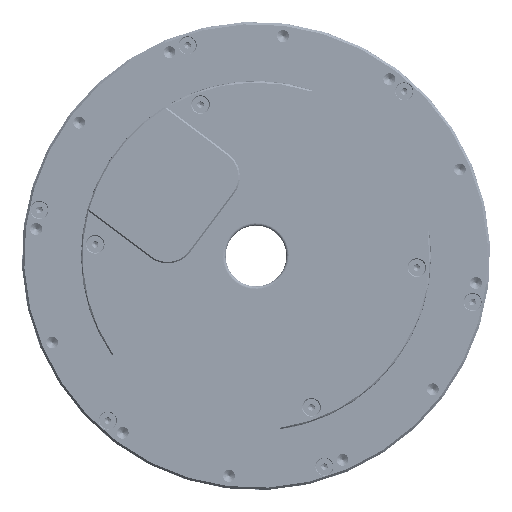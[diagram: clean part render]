
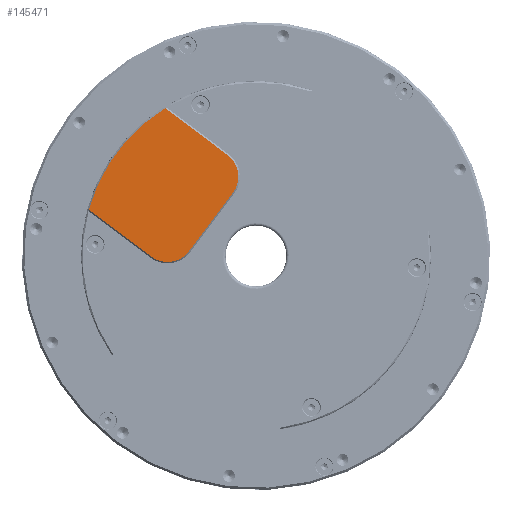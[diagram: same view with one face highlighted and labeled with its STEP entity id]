
A CAD part, front view. The second image highlights one B-rep face of the part: STEP entity #145471.
In plain terms, the highlighted planar face has unit normal (0, -1, 0) as drawn and (0, 1, 0) by its records, which use the part's own axes.
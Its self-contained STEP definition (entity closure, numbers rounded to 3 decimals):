
#111 = CARTESIAN_POINT ( 'NONE',  ( 20., 15., 13. ) ) ;
#3038 = CIRCLE ( 'NONE', #212226, 9.5 ) ;
#19775 = VECTOR ( 'NONE', #98049, 1000. ) ;
#40787 = DIRECTION ( 'NONE',  ( 0., 0., 1. ) ) ;
#41523 = EDGE_CURVE ( 'NONE', #121225, #242561, #149301, .T. ) ;
#42374 = EDGE_CURVE ( 'NONE', #144346, #281523, #48724, .T. ) ;
#42624 = ORIENTED_EDGE ( 'NONE', *, *, #274014, .T. ) ;
#45858 = VERTEX_POINT ( 'NONE', #83059 ) ;
#48724 = CIRCLE ( 'NONE', #365118, 61.5 ) ;
#50904 = EDGE_CURVE ( 'NONE', #260087, #45858, #3038, .T. ) ;
#57289 = CARTESIAN_POINT ( 'NONE',  ( 0., 15., 22.5 ) ) ;
#59827 = CARTESIAN_POINT ( 'NONE',  ( 29.5, 15., 22.5 ) ) ;
#70266 = DIRECTION ( 'NONE',  ( 0., 0., 1. ) ) ;
#72952 = CARTESIAN_POINT ( 'NONE',  ( 29.5, 15., -22.5 ) ) ;
#75769 = DIRECTION ( 'NONE',  ( 0., 1., 0. ) ) ;
#79219 = ORIENTED_EDGE ( 'NONE', *, *, #41523, .T. ) ;
#82415 = LINE ( 'NONE', #142320, #176179 ) ;
#83059 = CARTESIAN_POINT ( 'NONE',  ( 20., 15., -13. ) ) ;
#89481 = ORIENTED_EDGE ( 'NONE', *, *, #328472, .T. ) ;
#98049 = DIRECTION ( 'NONE',  ( 0., 0., 1. ) ) ;
#121225 = VERTEX_POINT ( 'NONE', #111 ) ;
#121829 = CARTESIAN_POINT ( 'NONE',  ( 57.236, 15., -22.5 ) ) ;
#124998 = PLANE ( 'NONE',  #176654 ) ;
#126180 = CARTESIAN_POINT ( 'NONE',  ( 20., 15., 0. ) ) ;
#128007 = LINE ( 'NONE', #126180, #19775 ) ;
#128694 = CARTESIAN_POINT ( 'NONE',  ( 0., 15., 0. ) ) ;
#134705 = DIRECTION ( 'NONE',  ( 0., 1., 0. ) ) ;
#142320 = CARTESIAN_POINT ( 'NONE',  ( 0., 15., -22.5 ) ) ;
#144346 = VERTEX_POINT ( 'NONE', #348304 ) ;
#145471 = ADVANCED_FACE ( 'NONE', ( #358636 ), #124998, .T. ) ;
#149301 = CIRCLE ( 'NONE', #179000, 9.5 ) ;
#153752 = ORIENTED_EDGE ( 'NONE', *, *, #311519, .T. ) ;
#154913 = DIRECTION ( 'NONE',  ( 0., 1., 0. ) ) ;
#163237 = DIRECTION ( 'NONE',  ( 0., 1., 0. ) ) ;
#176179 = VECTOR ( 'NONE', #196605, 1000. ) ;
#176654 = AXIS2_PLACEMENT_3D ( 'NONE', #128694, #154913, #40787 ) ;
#179000 = AXIS2_PLACEMENT_3D ( 'NONE', #302186, #75769, #70266 ) ;
#186389 = EDGE_LOOP ( 'NONE', ( #307268, #153752, #255249, #89481, #79219, #42624 ) ) ;
#189061 = DIRECTION ( 'NONE',  ( 0., 0., 1. ) ) ;
#190879 = CARTESIAN_POINT ( 'NONE',  ( 29.5, 15., -13. ) ) ;
#196605 = DIRECTION ( 'NONE',  ( -1., 0., 0. ) ) ;
#212226 = AXIS2_PLACEMENT_3D ( 'NONE', #190879, #134705, #189061 ) ;
#215756 = CARTESIAN_POINT ( 'NONE',  ( 0., 15., 0. ) ) ;
#242561 = VERTEX_POINT ( 'NONE', #59827 ) ;
#255249 = ORIENTED_EDGE ( 'NONE', *, *, #50904, .T. ) ;
#259325 = DIRECTION ( 'NONE',  ( 1., 0., 0. ) ) ;
#260087 = VERTEX_POINT ( 'NONE', #72952 ) ;
#263004 = LINE ( 'NONE', #57289, #283869 ) ;
#274014 = EDGE_CURVE ( 'NONE', #242561, #144346, #263004, .T. ) ;
#281523 = VERTEX_POINT ( 'NONE', #121829 ) ;
#283869 = VECTOR ( 'NONE', #259325, 1000. ) ;
#302186 = CARTESIAN_POINT ( 'NONE',  ( 29.5, 15., 13. ) ) ;
#307268 = ORIENTED_EDGE ( 'NONE', *, *, #42374, .T. ) ;
#311519 = EDGE_CURVE ( 'NONE', #281523, #260087, #82415, .T. ) ;
#328472 = EDGE_CURVE ( 'NONE', #45858, #121225, #128007, .T. ) ;
#329750 = DIRECTION ( 'NONE',  ( 0., 0., 1. ) ) ;
#348304 = CARTESIAN_POINT ( 'NONE',  ( 57.236, 15., 22.5 ) ) ;
#358636 = FACE_OUTER_BOUND ( 'NONE', #186389, .T. ) ;
#365118 = AXIS2_PLACEMENT_3D ( 'NONE', #215756, #163237, #329750 ) ;
